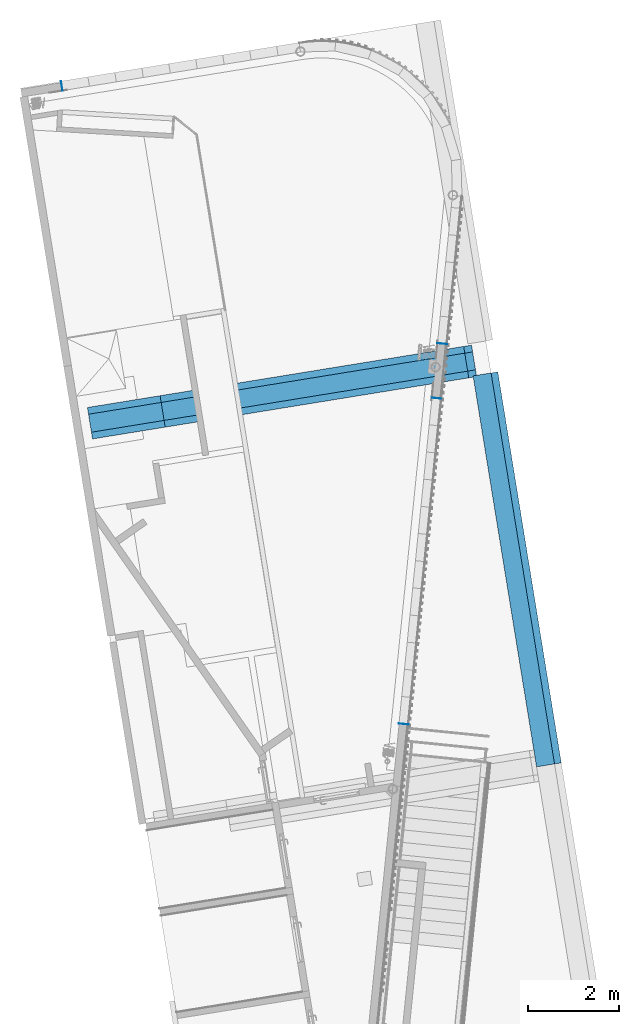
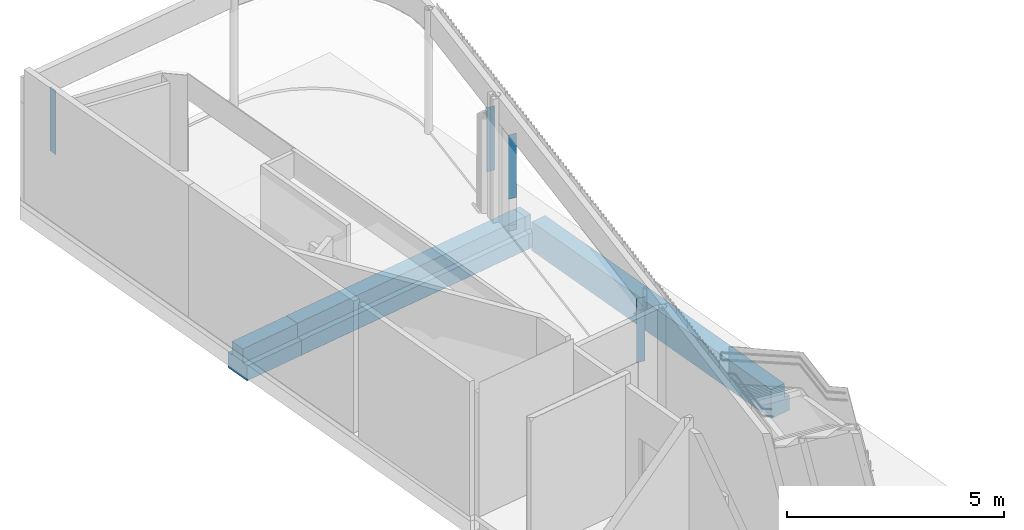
# One storey, part 3 of 23: 4 members, 3 beams, 2 elements without a shape of their own.
"""IFC2X3 building model written with IfcOpenShell, lengths in millimetres."""

from ifc_helpers import new_model, entity, si_unit, converted_unit, derived_unit, direction, frame, origin, origin_with_axes, origin_2d_with_axis, place, context, subcontext, project, spatial, polyline, rectangle, outline, extrude, source, transform, mapped, material, type_object, element, aggregate, save


model = new_model("IFC2X3")

# Units and contexts
plan_context = context("Plan", 3, precision=1e-05, world=origin_with_axes())
model_context = context("Model", 3, precision=0.01, world=origin(), true_north=direction((6.12323399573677e-17, 1.0)))
body_context = subcontext(model_context, "Body", "Model", "MODEL_VIEW")
ifc_project = project(units=[converted_unit("PLANEANGLEUNIT", "DEGREE", entity("IfcPositiveLengthMeasure", 0.0174532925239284), si_unit("PLANEANGLEUNIT", "RADIAN"), dimensions=[0, 0, 0, 0, 0, 0, 0]), si_unit("AREAUNIT", "SQUARE_METRE"), si_unit("LENGTHUNIT", "METRE", prefix="MILLI"), si_unit("MASSUNIT", "GRAM", prefix="KILO"), si_unit("POWERUNIT", "WATT"), si_unit("PRESSUREUNIT", "PASCAL", prefix="KILO"), si_unit("FORCEUNIT", "NEWTON", prefix="KILO"), si_unit("ELECTRICVOLTAGEUNIT", "VOLT"), si_unit("ELECTRICCURRENTUNIT", "AMPERE"), si_unit("THERMODYNAMICTEMPERATUREUNIT", "DEGREE_CELSIUS"), si_unit("TIMEUNIT", "SECOND"), si_unit("VOLUMEUNIT", "CUBIC_METRE"), derived_unit("LINEARVELOCITYUNIT", [(si_unit("LENGTHUNIT", "METRE"), 1), (si_unit("TIMEUNIT", "SECOND"), -1)]), derived_unit("VOLUMETRICFLOWRATEUNIT", [(si_unit("VOLUMEUNIT", "CUBIC_METRE"), 1), (si_unit("TIMEUNIT", "SECOND"), -1)]), derived_unit("THERMALTRANSMITTANCEUNIT", [(si_unit("POWERUNIT", "WATT"), 1), (si_unit("THERMODYNAMICTEMPERATUREUNIT", "KELVIN"), -1), (si_unit("AREAUNIT", "SQUARE_METRE"), -1)]), derived_unit("SOUNDPRESSUREUNIT", [(si_unit("PRESSUREUNIT", "PASCAL"), 1)])], contexts=[model_context, plan_context])

# Site, building, storey
site_placement = place(None, frame((-0.00071070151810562, 0.00438415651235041, 0.0), z_axis=(0.0, 0.0, 1.0), x_axis=(-0.160236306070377, 0.987078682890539, 0.0)))
site = spatial("IfcSite", under=ifc_project, at=site_placement, Name="Default", CompositionType="ELEMENT")
building_placement = place(site_placement, origin_with_axes())
building = spatial("IfcBuilding", under=site, at=building_placement, Name="TOO", CompositionType="ELEMENT")
storey_placement = place(building_placement, frame((0.0, 0.0, 58999.9999999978), z_axis=(0.0, 0.0, 1.0), x_axis=(1.0, 0.0, 0.0)))
storey = spatial("IfcBuildingStorey", under=building, at=storey_placement, Name="Nivå F", CompositionType="ELEMENT", Elevation=58999.9999999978)

# Curtain wall, member
curtain_wall_type = type_object("IfcCurtainWallType", Name="Curtain Wall:Curtain Wall Standard (Bruk kun denne)", PredefinedType="NOTDEFINED")
curtain_wall_1_placement = place(storey_placement, frame((0.0, 0.0, -58999.9999999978), z_axis=(0.0, 0.0, 1.0), x_axis=(1.0, 0.0, 0.0)))
curtain_wall_1 = element("IfcCurtainWall", 1, at=curtain_wall_1_placement, inside=storey, type_object=curtain_wall_type, Name="Curtain Wall:Curtain Wall Standard (Bruk kun denne)", ObjectType="Curtain Wall:Curtain Wall Standard (Bruk kun denne)")
ifc_material_1 = material(Name="A200 - Metall - Stål")
member_type_1 = type_object("IfcMemberType", Name="Rectangular Mullion:A248-M03 kantbeskyt. åpning 210 hovedpav -venstre", PredefinedType="MULLION", material=ifc_material_1)
shared_shape_1 = source(origin(), body_context, "Body", "SweptSolid", [
    extrude(rectangle(XDim=5.0, YDim=210.0, at=origin_2d_with_axis()), frame((2.5, 95.0, -1802.5), z_axis=(0.0, 0.0, 1.0), x_axis=(-1.0, 0.0, 0.0)), (0.0, 0.0, 1.0), 1802.5),
])
member_1_placement = place(curtain_wall_1_placement, frame((787388.155021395, -501802.480498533, 59899.9999999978), z_axis=(0.0, 0.0, -1.0), x_axis=(0.0, -1.0, 0.0)))
member_1 = element("IfcMember", 2, at=member_1_placement, type_object=member_type_1, material=ifc_material_1, Name="Rectangular Mullion:A248-M03 kantbeskyt. åpning 210 hovedpav -venstre", ObjectType="Rectangular Mullion:A248-M03 kantbeskyt. åpning 210 hovedpav -venstre", context=body_context, shape_type="MappedRepresentation", body=[
    mapped(shared_shape_1, transform((0.0, 0.0, 0.0), scale=1.0)),
])
aggregate(curtain_wall_1, [member_1])

# Curtain wall, members
curtain_wall_2_placement = place(storey_placement, frame((0.0, 0.0, -58999.9999999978), z_axis=(0.0, 0.0, 1.0), x_axis=(1.0, 0.0, 0.0)))
curtain_wall_2 = element("IfcCurtainWall", 3, at=curtain_wall_2_placement, inside=storey, type_object=curtain_wall_type, Name="Curtain Wall:Curtain Wall Standard (Bruk kun denne)", ObjectType="Curtain Wall:Curtain Wall Standard (Bruk kun denne)")
member_type_2 = type_object("IfcMemberType", Name="Rectangular Mullion:A248-M03 kantbeskyt. åpning 210 hovedpav -venstre", PredefinedType="MULLION", material=ifc_material_1)
shared_shape_2 = source(origin(), body_context, "Body", "SweptSolid", [
    extrude(rectangle(XDim=5.0, YDim=210.0, at=origin_2d_with_axis()), frame((2.5, -95.0, -1802.5), z_axis=(0.0, 0.0, 1.0), x_axis=(-1.0, 0.0, 0.0)), (0.0, 0.0, 1.0), 1802.5),
])
member_2_placement = place(curtain_wall_2_placement, frame((780335.489948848, -509238.64954762, 59899.9999999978), z_axis=(0.0, 0.0, -1.0), x_axis=(0.965925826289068, -0.258819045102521, 0.0)))
member_2 = element("IfcMember", 4, at=member_2_placement, type_object=member_type_2, material=ifc_material_1, Name="Rectangular Mullion:A248-M03 kantbeskyt. åpning 210 hovedpav -venstre", ObjectType="Rectangular Mullion:A248-M03 kantbeskyt. åpning 210 hovedpav -venstre", context=body_context, shape_type="MappedRepresentation", body=[
    mapped(shared_shape_2, transform((0.0, 0.0, 0.0), scale=1.0)),
])
member_type_3 = type_object("IfcMemberType", Name="Rectangular Mullion:A248-M03 kantbeskyt. åpning 210 hovedpav -høyre", PredefinedType="MULLION", material=ifc_material_1)
shared_shape_3 = source(origin(), body_context, "Body", "SweptSolid", [
    extrude(rectangle(XDim=5.0, YDim=210.0, at=origin_2d_with_axis()), frame((-2.5, -95.0, -1802.5), z_axis=(0.0, 0.0, 1.0), x_axis=(-1.0, 0.0, 0.0)), (0.0, 0.0, 1.0), 1802.5),
])
member_3_placement = place(curtain_wall_2_placement, frame((779176.378957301, -508928.066693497, 59899.9999999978), z_axis=(0.0, 0.0, -1.0), x_axis=(0.965925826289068, -0.258819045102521, 0.0)))
member_3 = element("IfcMember", 5, at=member_3_placement, type_object=member_type_3, material=ifc_material_1, Name="Rectangular Mullion:A248-M03 kantbeskyt. åpning 210 hovedpav -høyre", ObjectType="Rectangular Mullion:A248-M03 kantbeskyt. åpning 210 hovedpav -høyre", context=body_context, shape_type="MappedRepresentation", body=[
    mapped(shared_shape_3, transform((0.0, 0.0, 0.0), scale=1.0)),
])
member_type_4 = type_object("IfcMemberType", Name="Rectangular Mullion:A248-M03 kantbeskyt. åpning 210 hovedpav -venstre", PredefinedType="MULLION", material=ifc_material_1)
member_4_placement = place(curtain_wall_2_placement, frame((772221.71300802, -507064.569568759, 61702.4999999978), z_axis=(0.0, 0.0, 1.0), x_axis=(-0.965925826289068, 0.258819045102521, 0.0)))
member_4 = element("IfcMember", 6, at=member_4_placement, type_object=member_type_4, material=ifc_material_1, Name="Rectangular Mullion:A248-M03 kantbeskyt. åpning 210 hovedpav -venstre", ObjectType="Rectangular Mullion:A248-M03 kantbeskyt. åpning 210 hovedpav -venstre", context=body_context, shape_type="MappedRepresentation", body=[
    mapped(shared_shape_3, transform((0.0, 0.0, 0.0), scale=1.0)),
])
aggregate(curtain_wall_2, [member_2, member_3, member_4])

# Beams
ifc_material_2 = material(Name="Concrete - Cast-in-Place Concrete")
beam_type_1 = type_object("IfcBeamType", Name="A223 - DLB Prefab. Betongbjelke:A223 - DLB Prefab. Betongbjelke - 815 x 700 x 400 mm", PredefinedType="BEAM")
beam_1_placement = place(storey_placement, frame((779877.619644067, -509602.480498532, 0.0), z_axis=(0.0, 0.0, 1.0), x_axis=(0.0, 1.0, 0.0)))
element("IfcBeam", 7, at=beam_1_placement, inside=storey, type_object=beam_type_1, material=ifc_material_2, Name="A223 - DLB Prefab. Betongbjelke:A223 - DLB Prefab. Betongbjelke - 815 x 700 x 400 mm", ObjectType="A223 - DLB Prefab. Betongbjelke:A223 - DLB Prefab. Betongbjelke - 815 x 700 x 400 mm", context=body_context, shape_type="SweptSolid", body=[
    extrude(outline(polyline([(-6.25000000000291, -350.0), (413.749999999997, -350.0), (413.749999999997, 350.0), (-6.25000000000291, 350.0), (-6.25000000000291, 200.0), (-401.25, 200.0), (-401.25, -200.0), (-6.25000000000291, -200.0), (-6.25000000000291, -350.0)])), frame((0.0, 0.0, -621.250000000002), z_axis=(1.0, 0.0, 0.0), x_axis=(0.0, 0.0, -1.0)), (0.0, 0.0, 1.0), 6757.2940762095),
])
beam_type_2 = type_object("IfcBeamType", Name="A223 - LB Prefab. Betongbjelke 815x550:A223 - LB Prefab. Betongbjelke - 815 mm x 550 mm", PredefinedType="BEAM")
beam_2_placement = place(storey_placement, frame((770852.619644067, -510022.477242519, -5.0), z_axis=(0.0, 0.0, 1.0), x_axis=(1.0, 0.0, 0.0)))
element("IfcBeam", 8, at=beam_2_placement, inside=storey, type_object=beam_type_2, material=ifc_material_2, Name="A223 - LB Prefab. Betongbjelke 815x550:A223 - LB Prefab. Betongbjelke - 815 mm x 550 mm", ObjectType="A223 - LB Prefab. Betongbjelke 815x550:A223 - LB Prefab. Betongbjelke - 815 mm x 550 mm", context=body_context, shape_type="SweptSolid", body=[
    extrude(outline(polyline([(-8.33333333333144, -233.33333333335), (411.666666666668, -233.33333333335), (411.666666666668, 316.666666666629), (-403.333333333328, 316.666666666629), (-403.333333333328, -83.333333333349), (-8.33333333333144, -83.333333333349), (-8.33333333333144, -233.33333333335)])), frame((0.0, 2.33333333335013, -733.333333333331), z_axis=(1.0, 0.0, 0.0), x_axis=(0.0, 0.0, -1.0)), (0.0, 0.0, 1.0), 8703.00000000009),
])
ifc_material_3 = material(Name="Betong Plasstøpt - B1")
beam_type_3 = type_object("IfcBeamType", Name="223_Bjelker-T3-Prefab DLB:DLB400*815-700*420", PredefinedType="BEAM")
beam_3_placement = place(storey_placement, frame((779877.619644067, -509577.480498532, -225.0), z_axis=(0.0, 0.0, 1.0), x_axis=(0.0, 1.0, 0.0)))
element("IfcBeam", 9, at=beam_3_placement, inside=storey, type_object=beam_type_3, material=ifc_material_3, Name="223_Bjelker-T3-Prefab DLB:DLB400*815-700*420", ObjectType="223_Bjelker-T3-Prefab DLB:DLB400*815-700*420", context=body_context, shape_type="SweptSolid", body=[
    extrude(outline(polyline([(-6.25000000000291, -350.0), (413.749999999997, -350.0), (413.749999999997, 350.0), (-6.25000000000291, 350.0), (-6.25000000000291, 200.0), (-401.25, 200.0), (-401.25, -200.0), (-6.25000000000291, -200.0), (-6.25000000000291, -350.0)])), frame((-199.99999939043, 0.0, -401.25), z_axis=(1.0, 0.0, 0.0), x_axis=(0.0, 0.0, -1.0)), (0.0, 0.0, 1.0), 8549.99999939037),
])

save(model, "model.ifc")
